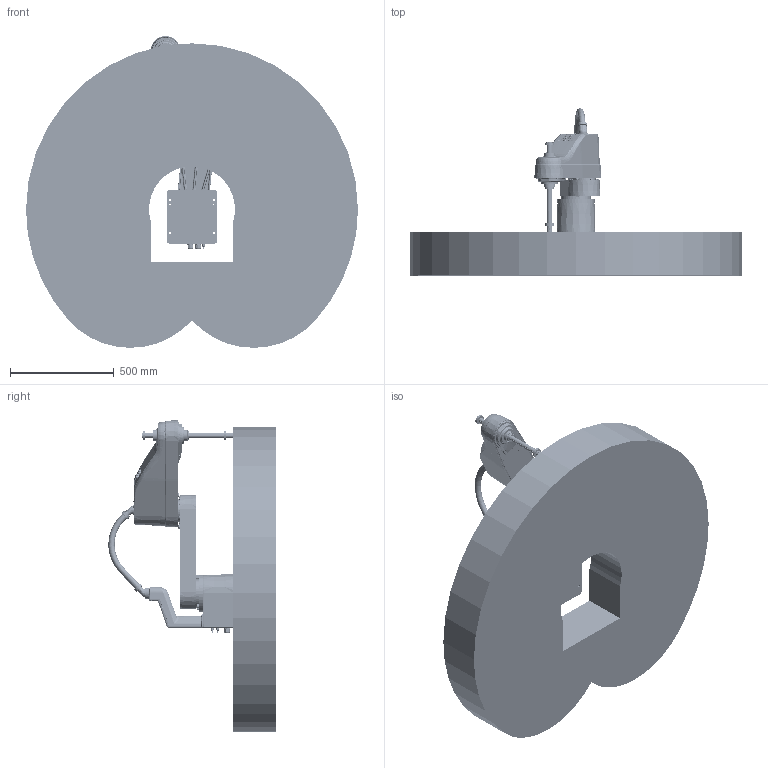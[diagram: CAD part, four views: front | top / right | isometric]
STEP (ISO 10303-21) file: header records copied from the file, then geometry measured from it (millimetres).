
FILE_DESCRIPTION (( 'STEP AP203' ), '1' );
FILE_NAME ('Python800-B20C 1.240BA.00.000.H.STEP', '2025-05-22T09:02:47', ( '' ), ( '' ), 'SwSTEP 2.0', 'SolidWorks 2021', '' );
FILE_SCHEMA (( 'CONFIG_CONTROL_DESIGN' ));
Length unit declared in the file: millimetre
Products named in the file (8): Python800-B10盄旰2; 菁釱窒煦; Python800-B20C 1.240BA.00.000.H; 盄旰諉諳啣; 苤旋窒煦; Python800-B10馱釬諾潔; 湮旋窒煦; 佪話豪瑩窒煦
Assembly tree (7 placements, depth 2):
  Python800-B20C 1.240BA.00.000.H
    菁釱窒煦
    湮旋窒煦
    苤旋窒煦
    佪話豪瑩窒煦
    盄旰諉諳啣
    Python800-B10盄旰2
    Python800-B10馱釬諾潔
Bounding box: 1600 x 806.4 x 1502.15 mm (x, y, z)
Volume: 370020758.8 mm3; surface area: 7719828.1 mm2
Topology: 196 solids, 196 shells, 9145 faces, 21537 edges, 13148 vertices
Faces by surface type: cylinder 3156, plane 2794, bspline 1148, cone 1090, torus 858, sphere 99
Entity records: 344211 total; most frequent: CARTESIAN_POINT 138802, DIRECTION 42847, ORIENTED_EDGE 42468, EDGE_CURVE 21234, AXIS2_PLACEMENT_3D 17287, VERTEX_POINT 13146, EDGE_LOOP 10536, CIRCLE 9280
